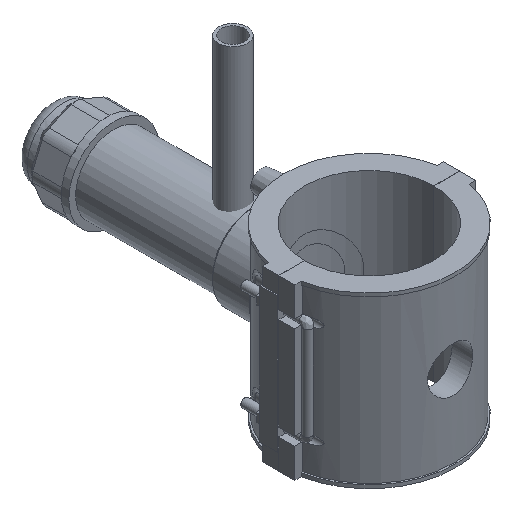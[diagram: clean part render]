
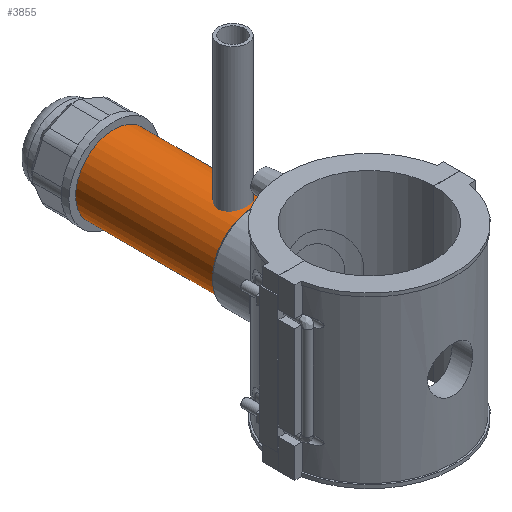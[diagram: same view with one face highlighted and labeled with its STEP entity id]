
A CAD part, isometric view. The second image highlights one B-rep face of the part: STEP entity #3855.
In plain terms, the highlighted cylindrical face has radius 26.775 mm (diameter 53.55 mm), a full revolution.
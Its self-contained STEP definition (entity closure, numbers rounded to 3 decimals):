
#320=CIRCLE('',#4184,26.775);
#321=CIRCLE('',#4185,26.775);
#336=CIRCLE('',#4216,26.775);
#337=CIRCLE('',#4217,26.775);
#580=FACE_OUTER_BOUND('',#822,.T.);
#822=EDGE_LOOP('',(#3556,#3557,#3558,#3559,#3560,#3561));
#1149=LINE('',#8044,#1470);
#1470=VECTOR('',#5221,26.775);
#1886=VERTEX_POINT('',#7978);
#1887=VERTEX_POINT('',#7979);
#1903=VERTEX_POINT('',#8040);
#1904=VERTEX_POINT('',#8041);
#2429=EDGE_CURVE('',#1886,#1887,#320,.T.);
#2430=EDGE_CURVE('',#1887,#1886,#321,.T.);
#2458=EDGE_CURVE('',#1903,#1904,#336,.T.);
#2459=EDGE_CURVE('',#1904,#1903,#337,.T.);
#2460=EDGE_CURVE('',#1904,#1887,#1149,.T.);
#3556=ORIENTED_EDGE('',*,*,#2458,.F.);
#3557=ORIENTED_EDGE('',*,*,#2459,.F.);
#3558=ORIENTED_EDGE('',*,*,#2460,.T.);
#3559=ORIENTED_EDGE('',*,*,#2430,.T.);
#3560=ORIENTED_EDGE('',*,*,#2429,.T.);
#3561=ORIENTED_EDGE('',*,*,#2460,.F.);
#3640=CYLINDRICAL_SURFACE('',#4215,26.775);
#3855=ADVANCED_FACE('',(#580),#3640,.T.);
#4184=AXIS2_PLACEMENT_3D('',#7980,#5140,#5141);
#4185=AXIS2_PLACEMENT_3D('',#7981,#5142,#5143);
#4215=AXIS2_PLACEMENT_3D('',#8039,#5215,#5216);
#4216=AXIS2_PLACEMENT_3D('',#8042,#5217,#5218);
#4217=AXIS2_PLACEMENT_3D('',#8043,#5219,#5220);
#5140=DIRECTION('center_axis',(0.,1.,0.));
#5141=DIRECTION('ref_axis',(1.,0.,0.));
#5142=DIRECTION('center_axis',(0.,1.,0.));
#5143=DIRECTION('ref_axis',(1.,0.,0.));
#5215=DIRECTION('center_axis',(0.,1.,0.));
#5216=DIRECTION('ref_axis',(0.,0.,1.));
#5217=DIRECTION('center_axis',(0.,1.,0.));
#5218=DIRECTION('ref_axis',(1.,0.,0.));
#5219=DIRECTION('center_axis',(0.,1.,0.));
#5220=DIRECTION('ref_axis',(1.,0.,0.));
#5221=DIRECTION('',(0.,-1.,0.));
#7978=CARTESIAN_POINT('',(0.,81.,26.775));
#7979=CARTESIAN_POINT('',(0.,81.,-26.775));
#7980=CARTESIAN_POINT('Origin',(0.,81.,0.));
#7981=CARTESIAN_POINT('Origin',(0.,81.,0.));
#8039=CARTESIAN_POINT('Origin',(0.,129.375,0.));
#8040=CARTESIAN_POINT('',(0.,177.75,26.775));
#8041=CARTESIAN_POINT('',(0.,177.75,-26.775));
#8042=CARTESIAN_POINT('Origin',(0.,177.75,0.));
#8043=CARTESIAN_POINT('Origin',(0.,177.75,0.));
#8044=CARTESIAN_POINT('',(0.,129.375,-26.775));
